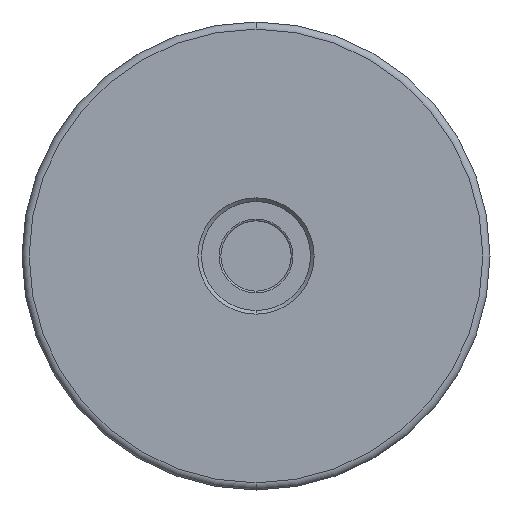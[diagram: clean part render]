
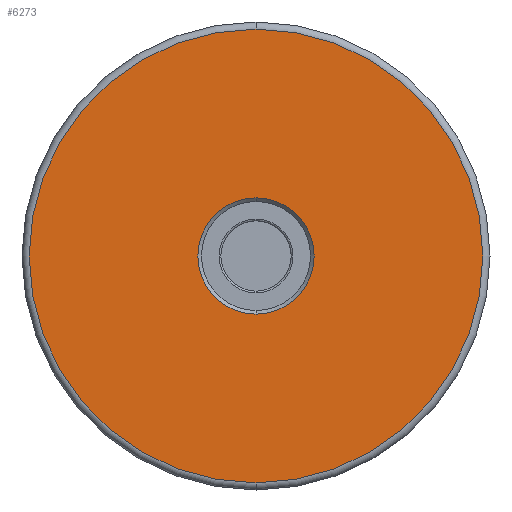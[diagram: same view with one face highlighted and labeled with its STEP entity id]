
A CAD part, front view. The second image highlights one B-rep face of the part: STEP entity #6273.
In plain terms, the highlighted planar face has unit normal (0, -1, 0).
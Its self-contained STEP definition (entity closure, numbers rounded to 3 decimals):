
#1173 = VERTEX_POINT ( 'NONE', #45709 ) ;
#2683 = CARTESIAN_POINT ( 'NONE',  ( 92.281, -28.824, 133.187 ) ) ;
#5931 = EDGE_CURVE ( 'NONE', #26856, #37407, #58964, .T. ) ;
#6273 = ADVANCED_FACE ( 'NONE', ( #45821, #51008 ), #61717, .F. ) ;
#7732 = AXIS2_PLACEMENT_3D ( 'NONE', #53080, #28022, #42042 ) ;
#14118 = VERTEX_POINT ( 'NONE', #2683 ) ;
#14440 = ORIENTED_EDGE ( 'NONE', *, *, #5931, .T. ) ;
#18214 = DIRECTION ( 'NONE',  ( 0., 1., 0. ) ) ;
#19921 = ORIENTED_EDGE ( 'NONE', *, *, #63492, .T. ) ;
#19994 = EDGE_LOOP ( 'NONE', ( #27759, #19921 ) ) ;
#23522 = AXIS2_PLACEMENT_3D ( 'NONE', #58587, #18214, #53055 ) ;
#25843 = EDGE_LOOP ( 'NONE', ( #28616, #14440 ) ) ;
#26738 = AXIS2_PLACEMENT_3D ( 'NONE', #55857, #56169, #31413 ) ;
#26856 = VERTEX_POINT ( 'NONE', #40010 ) ;
#27759 = ORIENTED_EDGE ( 'NONE', *, *, #57984, .T. ) ;
#28022 = DIRECTION ( 'NONE',  ( 0., -1., 0. ) ) ;
#28394 = DIRECTION ( 'NONE',  ( 0., -1., 0. ) ) ;
#28616 = ORIENTED_EDGE ( 'NONE', *, *, #34173, .T. ) ;
#31413 = DIRECTION ( 'NONE',  ( 1., 0., 0. ) ) ;
#32600 = AXIS2_PLACEMENT_3D ( 'NONE', #37817, #28394, #53774 ) ;
#34173 = EDGE_CURVE ( 'NONE', #37407, #26856, #52567, .T. ) ;
#35045 = AXIS2_PLACEMENT_3D ( 'NONE', #45658, #46277, #60936 ) ;
#35727 = CIRCLE ( 'NONE', #32600, 63. ) ;
#37407 = VERTEX_POINT ( 'NONE', #53178 ) ;
#37817 = CARTESIAN_POINT ( 'NONE',  ( 92.281, -28.824, 70.187 ) ) ;
#40010 = CARTESIAN_POINT ( 'NONE',  ( 92.281, -28.824, 86.337 ) ) ;
#42042 = DIRECTION ( 'NONE',  ( 0., 0., -1. ) ) ;
#45658 = CARTESIAN_POINT ( 'NONE',  ( 92.281, -28.824, 70.187 ) ) ;
#45709 = CARTESIAN_POINT ( 'NONE',  ( 92.281, -28.824, 7.187 ) ) ;
#45821 = FACE_BOUND ( 'NONE', #25843, .T. ) ;
#46277 = DIRECTION ( 'NONE',  ( 0., 1., 0. ) ) ;
#51008 = FACE_OUTER_BOUND ( 'NONE', #19994, .T. ) ;
#52567 = CIRCLE ( 'NONE', #23522, 16.15 ) ;
#53055 = DIRECTION ( 'NONE',  ( 0., 0., 1. ) ) ;
#53080 = CARTESIAN_POINT ( 'NONE',  ( 92.281, -28.824, 70.187 ) ) ;
#53178 = CARTESIAN_POINT ( 'NONE',  ( 92.281, -28.824, 54.037 ) ) ;
#53774 = DIRECTION ( 'NONE',  ( 0., 0., -1. ) ) ;
#55857 = CARTESIAN_POINT ( 'NONE',  ( 92.281, -28.824, 70.187 ) ) ;
#56169 = DIRECTION ( 'NONE',  ( 0., 1., 0. ) ) ;
#57984 = EDGE_CURVE ( 'NONE', #1173, #14118, #62801, .T. ) ;
#58587 = CARTESIAN_POINT ( 'NONE',  ( 92.281, -28.824, 70.187 ) ) ;
#58964 = CIRCLE ( 'NONE', #35045, 16.15 ) ;
#60936 = DIRECTION ( 'NONE',  ( 0., 0., 1. ) ) ;
#61717 = PLANE ( 'NONE',  #26738 ) ;
#62801 = CIRCLE ( 'NONE', #7732, 63. ) ;
#63492 = EDGE_CURVE ( 'NONE', #14118, #1173, #35727, .T. ) ;
